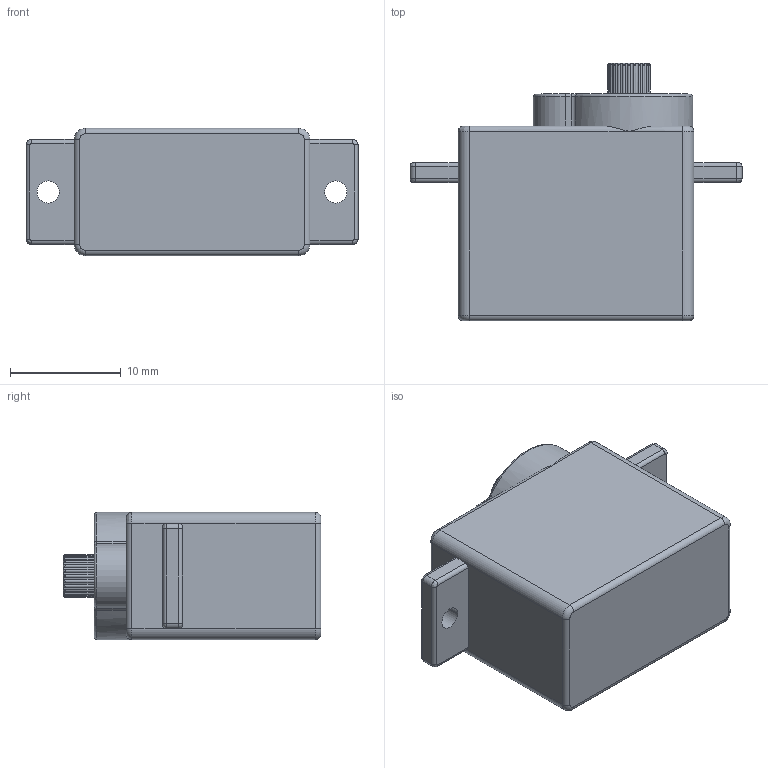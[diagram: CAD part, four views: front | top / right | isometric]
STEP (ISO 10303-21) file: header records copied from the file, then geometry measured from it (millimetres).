
FILE_DESCRIPTION((''),'2;1');
FILE_NAME('B05CLS','2022-07-08T',('Administrator'),(''),'PRO/ENGINEER BY PARAMETRIC TECHNOLOGY CORPORATION, 2010280','PRO/ENGINEER BY PARAMETRIC TECHNOLOGY CORPORATION, 2010280','');
FILE_SCHEMA(('CONFIG_CONTROL_DESIGN'));
Length unit declared in the file: millimetre
Products named in the file (1): B05CLS
Bounding box: 30 x 23.3 x 11.5 mm (x, y, z)
Volume: 4798.1 mm3; surface area: 1933.7 mm2
Topology: 1 solids, 1 shells, 134 faces, 367 edges, 236 vertices
Faces by surface type: cylinder 88, plane 24, torus 12, bspline 10
Entity records: 4731 total; most frequent: CARTESIAN_POINT 1340, ORIENTED_EDGE 734, DIRECTION 691, EDGE_CURVE 367, AXIS2_PLACEMENT_3D 277, VERTEX_POINT 236, CIRCLE 153, EDGE_LOOP 139
